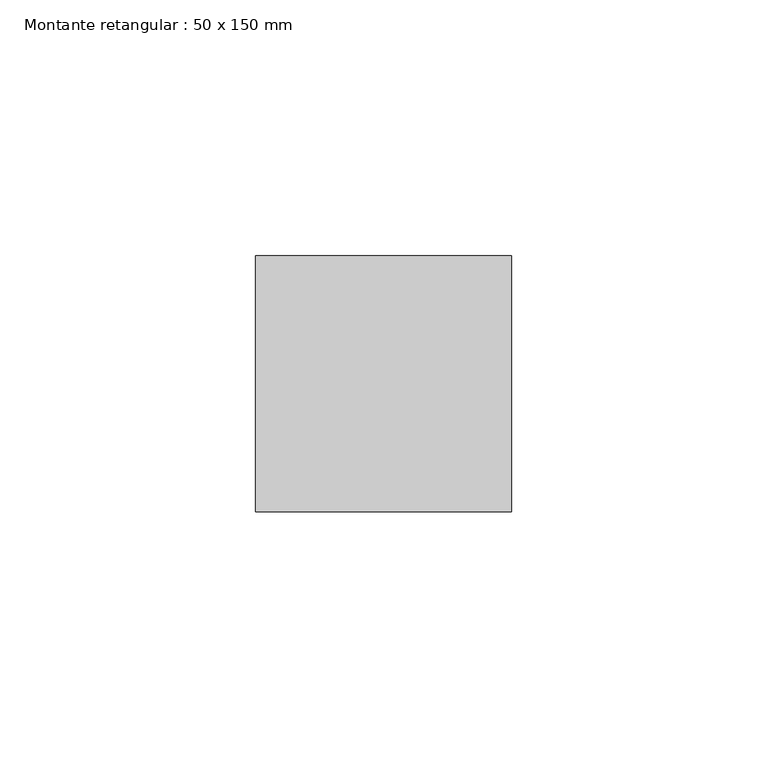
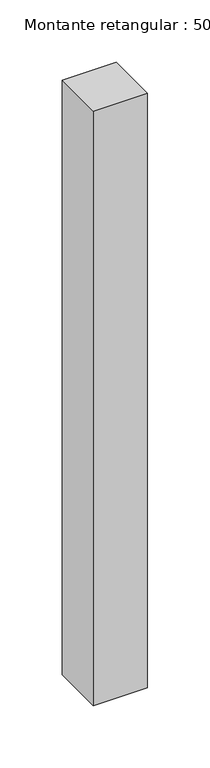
"""IFC4 building model written with IfcOpenShell, lengths in millimetres: member geometry, Montante retangular : 50 x 150 mm."""

from ifc_helpers import new_model, si_unit, frame, origin, place, context, project, spatial, polyline, outline, extrude, source, transform, mapped, element, save


def montante_retangular_50_x_150_mm_4b5e2819(model_context):
    return source(origin(), model_context, "Body", "SweptSolid", [
        extrude(outline(polyline([(0.0, 25.0), (0.0, -25.0), (-50.0, -25.0), (-50.0, 25.0), (0.0, 25.0)])), frame((0.0, 0.0, -582.5527297), z_axis=(0.0, 0.0, 1.0), x_axis=(1.0, 0.0, 0.0)), (0.0, 0.0, 1.0), 582.5527297),
    ])


if __name__ == "__main__":
    model = new_model("IFC4")
    model_context = context("Model", 3, world=origin())
    ifc_project = project(units=[si_unit("LENGTHUNIT", "METRE", prefix="MILLI")], contexts=[model_context])
    site = spatial("IfcSite", under=ifc_project)
    building = spatial("IfcBuilding", under=site)
    placement = place(None, origin())
    montante_retangular_50_x_150_mm_shape = montante_retangular_50_x_150_mm_4b5e2819(model_context)
    element("IfcMember", 1, ObjectType="Montante retangular : 50 x 150 mm", at=placement, inside=building, context=model_context, shape_type="MappedRepresentation", body=[
        mapped(montante_retangular_50_x_150_mm_shape, transform((0.0, 0.0, 0.0), x_axis=(1.0, 0.0, 0.0), y_axis=(0.0, 1.0, 0.0), z_axis=(0.0, 0.0, 1.0))),
    ])
    save(model, "model.ifc")
